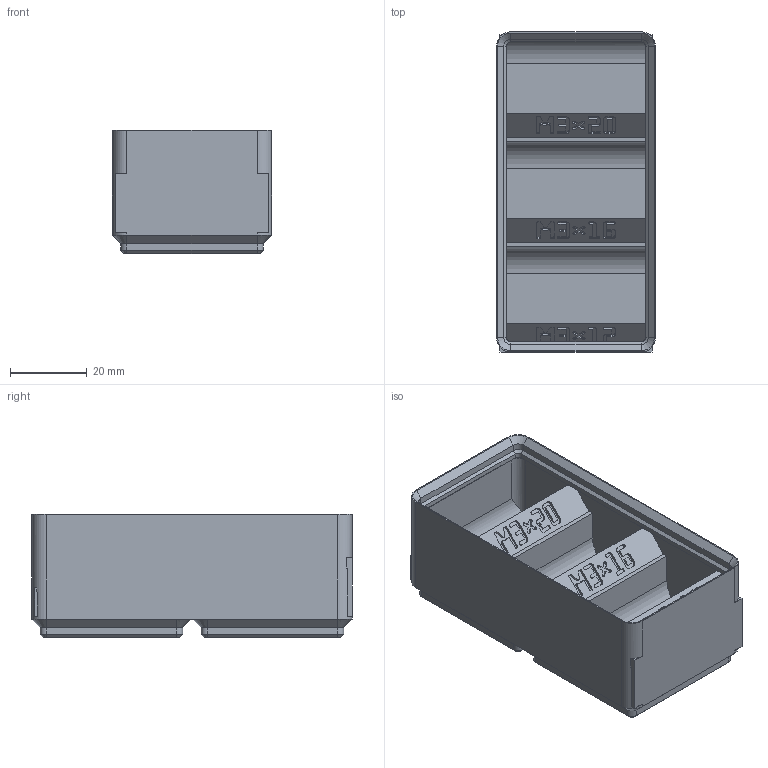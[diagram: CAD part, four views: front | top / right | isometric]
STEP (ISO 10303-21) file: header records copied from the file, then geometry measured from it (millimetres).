
FILE_DESCRIPTION(('Open CASCADE Model'),'2;1');
FILE_NAME('Open CASCADE Shape Model','2026-11-03T10:59:34',('Author'),( 'Open CASCADE'),'Open CASCADE STEP processor 8.0','build123d', 'Unknown');
FILE_SCHEMA(('AUTOMOTIVE_DESIGN { 1 0 10303 214 1 1 1 1 }'));
Products named in the file (1): COMPOUND
Bounding box: 41.5 x 83.5 x 32.1 mm (x, y, z)
Volume: 31184 mm3; surface area: 24754.2 mm2
Topology: 1 solids, 1 shells, 1723 faces, 5029 edges, 3330 vertices
Faces by surface type: plane 1664, cylinder 31, cone 28
Entity records: 121079 total; most frequent: CARTESIAN_POINT 20834, DIRECTION 18239, LINE 14575, VECTOR 14575, ORIENTED_EDGE 10058, PCURVE 10058, DEFINITIONAL_REPRESENTATION 10058, EDGE_CURVE 5029
